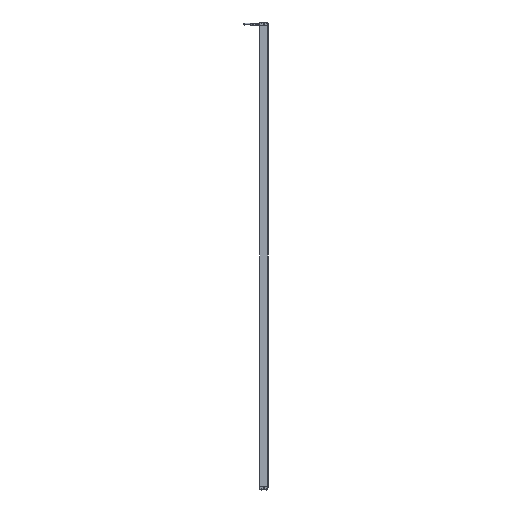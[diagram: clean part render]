
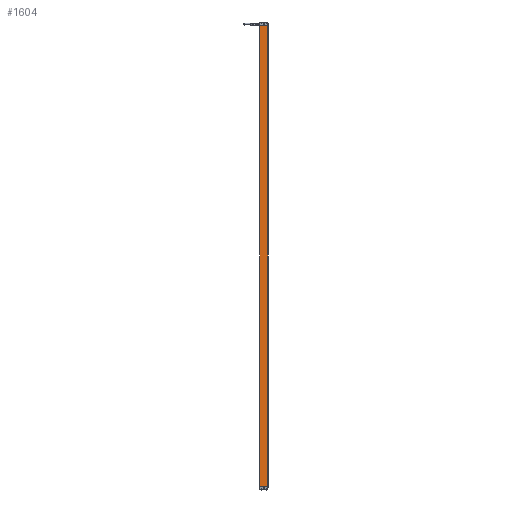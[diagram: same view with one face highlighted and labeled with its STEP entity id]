
A CAD part, front view. The second image highlights one B-rep face of the part: STEP entity #1604.
In plain terms, the highlighted planar face has unit normal (-0.001, -1, 0).
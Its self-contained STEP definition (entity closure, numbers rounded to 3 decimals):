
#1604=ADVANCED_FACE('',(#2720),#2349,.T.);
#2349=PLANE('',#14604);
#2720=FACE_OUTER_BOUND('',#3441,.T.);
#3441=EDGE_LOOP('',(#4477,#4478,#4479,#4480));
#4477=ORIENTED_EDGE('',*,*,#10104,.T.);
#4478=ORIENTED_EDGE('',*,*,#10057,.F.);
#4479=ORIENTED_EDGE('',*,*,#10102,.T.);
#4480=ORIENTED_EDGE('',*,*,#10105,.T.);
#8601=VERTEX_POINT('',#19889);
#8602=VERTEX_POINT('',#19891);
#8639=VERTEX_POINT('',#19980);
#8640=VERTEX_POINT('',#19984);
#10057=EDGE_CURVE('',#8601,#8602,#12174,.T.);
#10102=EDGE_CURVE('',#8601,#8639,#12205,.T.);
#10104=EDGE_CURVE('',#8640,#8602,#12206,.T.);
#10105=EDGE_CURVE('',#8639,#8640,#12207,.T.);
#12174=LINE('',#19890,#13389);
#12205=LINE('',#19979,#13420);
#12206=LINE('',#19983,#13421);
#12207=LINE('',#19985,#13422);
#13389=VECTOR('',#16033,1.);
#13420=VECTOR('',#16106,1.);
#13421=VECTOR('',#16111,1.);
#13422=VECTOR('',#16112,1.);
#14604=AXIS2_PLACEMENT_3D('',#19986,#16113,#16114);
#16033=DIRECTION('',(1.,-0.001,0.));
#16106=DIRECTION('',(0.,0.,-1.));
#16111=DIRECTION('',(0.,0.,1.));
#16112=DIRECTION('',(1.,-0.001,0.));
#16113=DIRECTION('',(-0.001,-1.,0.));
#16114=DIRECTION('',(1.,-0.001,0.));
#19889=CARTESIAN_POINT('',(53.048,-142.376,1720.376));
#19890=CARTESIAN_POINT('',(79.028,-142.395,1720.376));
#19891=CARTESIAN_POINT('',(79.028,-142.395,1720.376));
#19979=CARTESIAN_POINT('',(53.048,-142.376,543.376));
#19980=CARTESIAN_POINT('',(53.048,-142.376,198.376));
#19983=CARTESIAN_POINT('',(79.028,-142.395,198.376));
#19984=CARTESIAN_POINT('',(79.028,-142.395,198.376));
#19985=CARTESIAN_POINT('',(53.048,-142.376,198.376));
#19986=CARTESIAN_POINT('',(79.028,-142.395,543.376));
